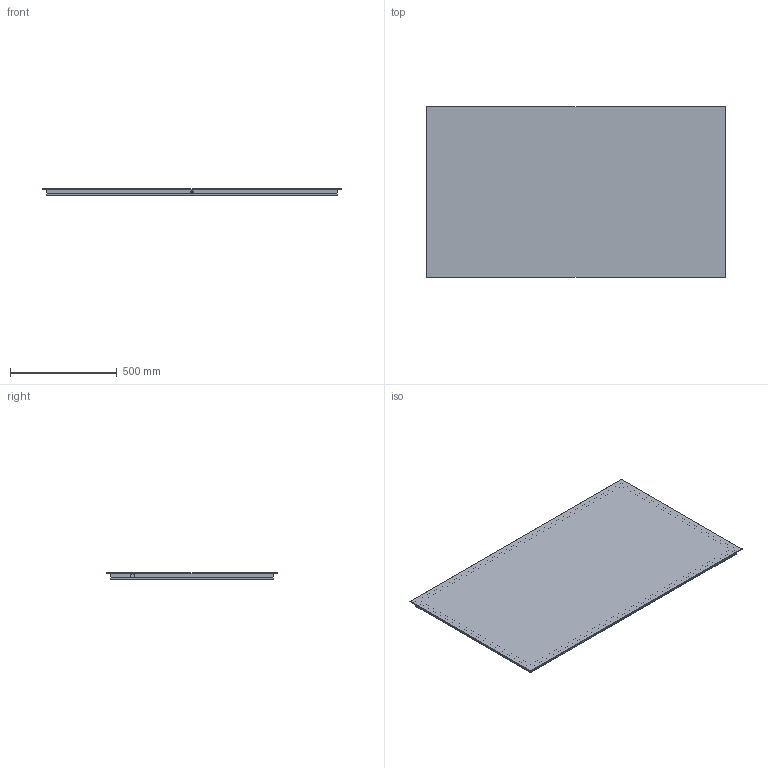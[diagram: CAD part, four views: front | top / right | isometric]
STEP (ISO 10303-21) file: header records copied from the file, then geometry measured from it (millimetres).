
FILE_DESCRIPTION (( 'STEP AP203' ), '1' );
FILE_NAME ('SPIEGEL MODEL 12 140CM.STEP', '2016-07-14T09:43:59', ( '' ), ( '' ), 'SwSTEP 2.0', 'SolidWorks 2016', '' );
FILE_SCHEMA (( 'CONFIG_CONTROL_DESIGN' ));
Length unit declared in the file: millimetre
Products named in the file (1): SPIEGEL MODEL 12 140CM
Bounding box: 1400 x 800 x 30 mm (x, y, z)
Volume: 6090900.7 mm3; surface area: 2474817.7 mm2
Topology: 1 solids, 1 shells, 53 faces, 114 edges, 68 vertices
Faces by surface type: plane 47, cylinder 6
Entity records: 1469 total; most frequent: CARTESIAN_POINT 236, DIRECTION 234, ORIENTED_EDGE 228, EDGE_CURVE 114, VECTOR 102, LINE 102, VERTEX_POINT 68, AXIS2_PLACEMENT_3D 66
